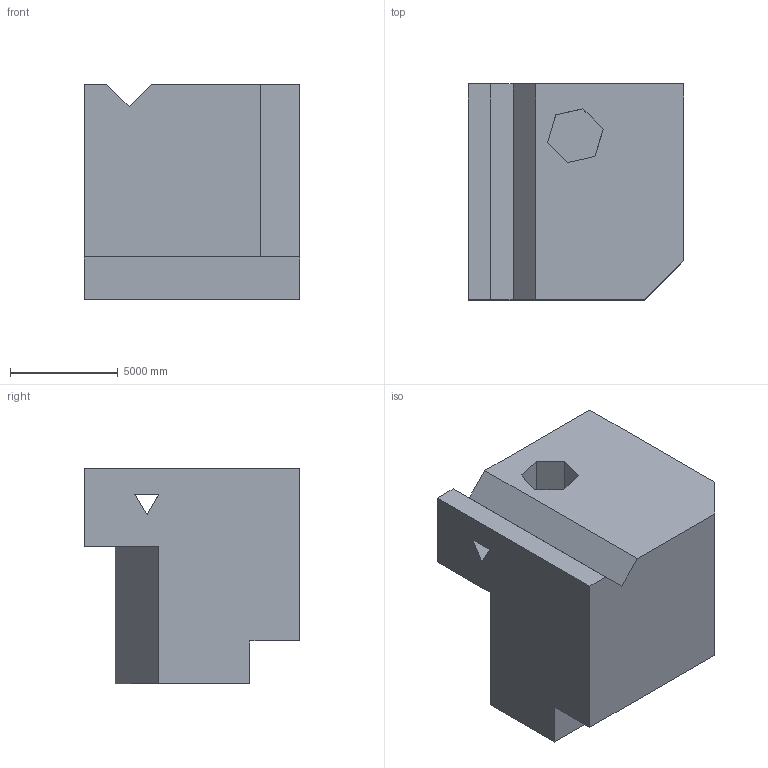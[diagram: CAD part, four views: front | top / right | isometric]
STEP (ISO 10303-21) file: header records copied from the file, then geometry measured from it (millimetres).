
FILE_DESCRIPTION (( 'STEP AP203' ), '1' );
FILE_NAME ('1568.STEP', '2022-08-18T15:51:12', ( 'user' ), ( '' ), 'SwSTEP 2.0', 'SolidWorks 2021', '' );
FILE_SCHEMA (( 'CONFIG_CONTROL_DESIGN' ));
Length unit declared in the file: centimetre
Products named in the file (1): 1568
Bounding box: 10000 x 10000 x 10000 mm (x, y, z)
Volume: 758485811001.7 mm3; surface area: 598963567.8 mm2
Topology: 1 solids, 1 shells, 27 faces, 78 edges, 52 vertices
Faces by surface type: plane 27
Entity records: 957 total; most frequent: CARTESIAN_POINT 158, ORIENTED_EDGE 156, DIRECTION 134, EDGE_CURVE 78, LINE 78, VECTOR 78, VERTEX_POINT 52, EDGE_LOOP 30
